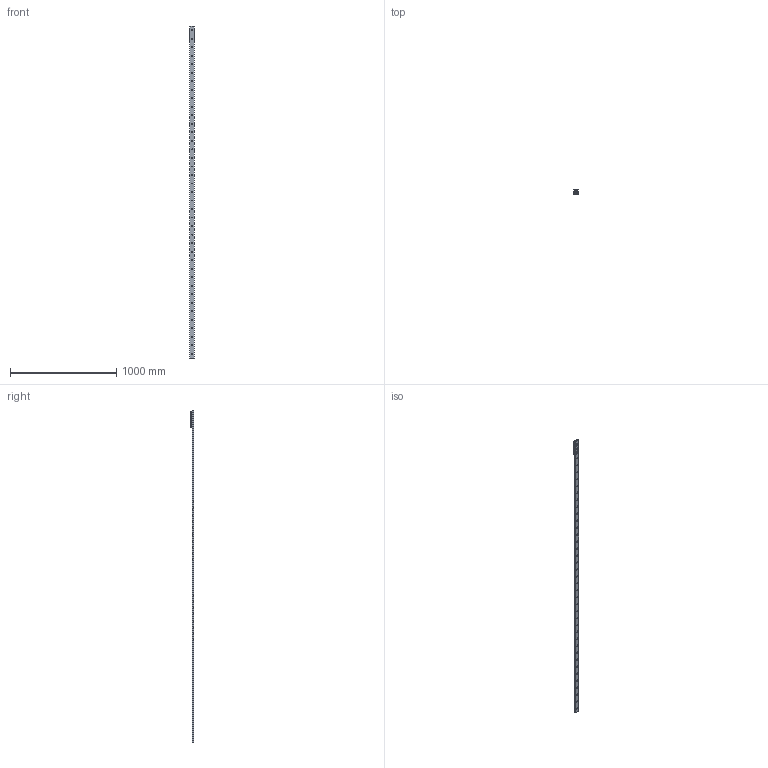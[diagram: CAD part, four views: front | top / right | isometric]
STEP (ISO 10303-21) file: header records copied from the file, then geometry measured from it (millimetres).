
FILE_DESCRIPTION( ( 'STEP AP214' ), '1' );
FILE_NAME( 'p:/temp/worker_55/temp/exporttempdir_2036_285_0bhea/format_1/TGV-03120_1_RV43G-3.stp', '2021-06-09T19:43:05', ( 'License CC BY-ND 4.0' ), ( 'CADENAS' ), ' ', 'PARTsolutions', ' ' );
FILE_SCHEMA( ( 'AUTOMOTIVE_DESIGN { 1 0 10303 214 1 1 1 1 }' ) );
Length unit declared in the file: millimetre
Products named in the file (6): TGV-03120/1/RV43G-3; _TGV43-3120-(3-1); _RVG43-3-slider; _RGNV43R; _RGAV43R; _WR43G-01
Assembly tree (7 placements, depth 2):
  TGV-03120/1/RV43G-3
    _TGV43-3120-(3-1)
    _RVG43-3-slider
    _RGNV43R  x2
    _RGAV43R
    _WR43G-01  x2
Bounding box: 43 x 37 x 3120 mm (x, y, z)
Volume: 1263019.5 mm3; surface area: 509012.6 mm2
Topology: 7 solids, 7 shells, 1119 faces, 2919 edges, 1896 vertices
Faces by surface type: plane 663, cylinder 335, cone 78, bspline 34, torus 9
Full cylindrical faces by diameter (mm): 1.76 x4, 3 x8, 6 x4, 6.647 x4, 6.8 x3, 8 x3, 8.5 x39, 11 x11, 15 x6, 15.5 x1, 18.98 x2, 19 x1, 31.4 x6
Entity records: 27223 total; most frequent: CARTESIAN_POINT 4238, DIRECTION 3657, ORIENTED_EDGE 3298, EDGE_CURVE 1649, AXIS2_PLACEMENT_3D 1425, VERTEX_POINT 1168, EDGE_LOOP 1031, FACE_OUTER_BOUND 808
